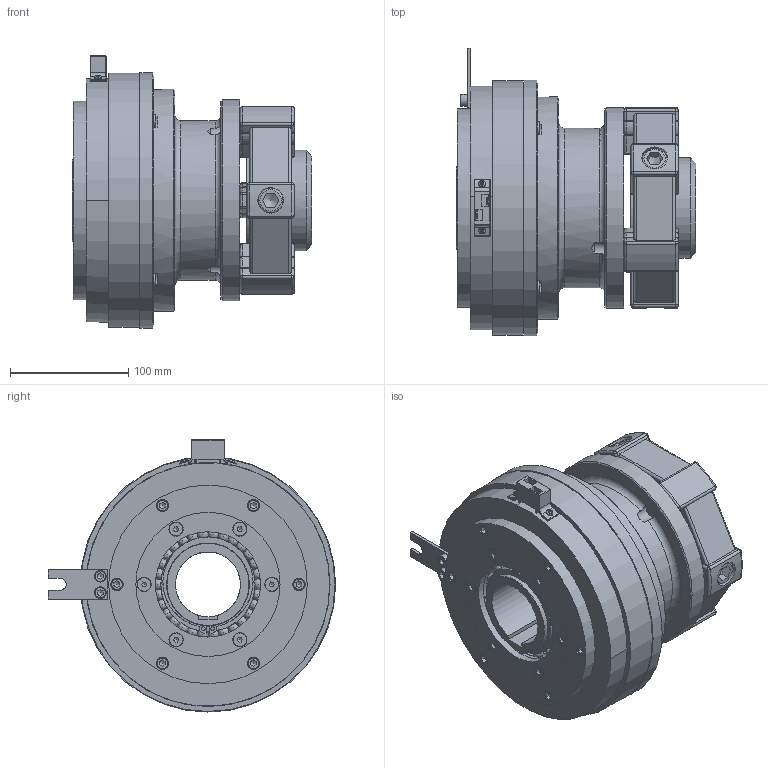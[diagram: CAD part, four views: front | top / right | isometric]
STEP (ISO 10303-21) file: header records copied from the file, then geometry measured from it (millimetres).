
FILE_DESCRIPTION(/* description */ (''),/* implementation_level */ '2;1');
FILE_NAME(/* name */ 'X:\INVENTOR\DISEGNI\08_Freni_Friz_Elettmag_Monodisco\08_26 EMSL_DF\EMSL_DF STEP\08_26_210_51 EMSL210_DF-GE_S@STEP.stp',/* time_stamp */ '2018-04-24T10:15:30+02:00',/* author */ ('stefano'),/* organization */ (''),/* preprocessor_version */ 'ST-DEVELOPER v17',/* originating_system */ 'Autodesk Inventor 2018',/* authorisation */ '');
FILE_SCHEMA (('AUTOMOTIVE_DESIGN { 1 0 10303 214 3 1 1 }'));
Products named in the file (1): 08_26_210_51 EMSL210_DF-GE - Spina_Substitute_1
Bounding box: 203 x 243 x 230.22 mm (x, y, z)
Volume: 3336362.8 mm3; surface area: 600690.6 mm2
Topology: 1 solids, 1 shells, 1395 faces, 4159 edges, 2685 vertices
Faces by surface type: plane 463, cylinder 458, torus 265, sphere 122, cone 87
Full cylindrical faces by diameter (mm): 2 x4, 3 x2, 3.5 x2, 4.917 x8, 5.6 x2, 6.647 x4, 7 x4, 7.1 x4, 10 x16, 10.5 x6, 11 x4, 11.34 x6, 11.835 x6, 12 x6, 13 x8, 21 x6, 21.5 x6, 67 x2, 70 x5, 79.6 x4, 82 x1, 82.8 x4, 85 x1, 89 x1, 90.4 x4, 92 x1, 96 x1, 97.2 x4, 110 x4, 115 x1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
Entity records: 53199 total; most frequent: CARTESIAN_POINT 15300, DIRECTION 7914, ORIENTED_EDGE 7896, EDGE_CURVE 3948, AXIS2_PLACEMENT_3D 3350, VERTEX_POINT 2685, CIRCLE 1954, EDGE_LOOP 1715
